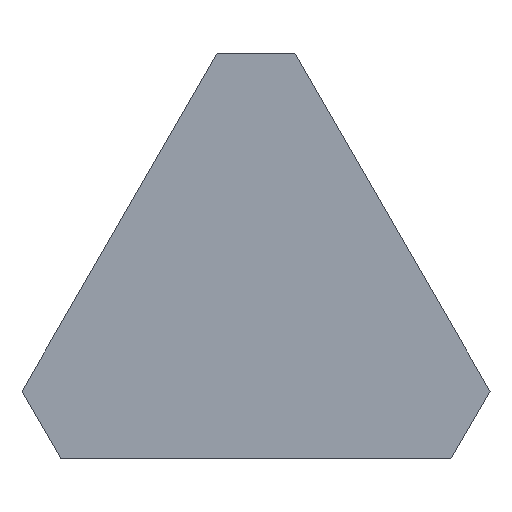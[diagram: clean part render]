
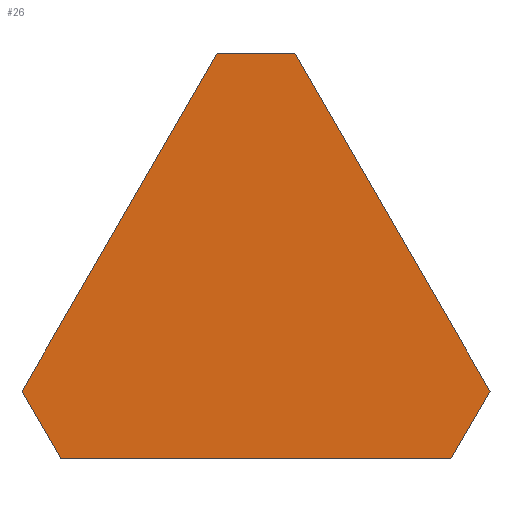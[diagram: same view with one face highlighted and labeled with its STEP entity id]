
A CAD part, top view. The second image highlights one B-rep face of the part: STEP entity #26.
In plain terms, the highlighted planar face has unit normal (0, 0, 1).
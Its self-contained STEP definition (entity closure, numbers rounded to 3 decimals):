
#26=ADVANCED_FACE($,(#58),#389,.T.);
#58=FACE_OUTER_BOUND($,#90,.T.);
#90=EDGE_LOOP($,(#169,#170,#171,#172,#173,#174));
#169=ORIENTED_EDGE($,*,*,#286,.T.);
#170=ORIENTED_EDGE($,*,*,#288,.T.);
#171=ORIENTED_EDGE($,*,*,#290,.T.);
#172=ORIENTED_EDGE($,*,*,#292,.T.);
#173=ORIENTED_EDGE($,*,*,#294,.T.);
#174=ORIENTED_EDGE($,*,*,#296,.T.);
#286=EDGE_CURVE($,#353,#354,#437,.T.);
#288=EDGE_CURVE($,#354,#355,#439,.T.);
#290=EDGE_CURVE($,#355,#356,#441,.T.);
#292=EDGE_CURVE($,#356,#357,#443,.T.);
#294=EDGE_CURVE($,#357,#358,#445,.T.);
#296=EDGE_CURVE($,#358,#353,#447,.T.);
#353=VERTEX_POINT($,#879);
#354=VERTEX_POINT($,#880);
#355=VERTEX_POINT($,#881);
#356=VERTEX_POINT($,#882);
#357=VERTEX_POINT($,#883);
#358=VERTEX_POINT($,#884);
#389=PLANE($,#582);
#437=B_SPLINE_CURVE_WITH_KNOTS($,1,(#714,#715),.UNSPECIFIED.,.F.,.F.,(2,
2),(-35.991,3.599),.UNSPECIFIED.);
#439=B_SPLINE_CURVE_WITH_KNOTS($,1,(#718,#719),.UNSPECIFIED.,.F.,.F.,(2,
2),(3.599,8.638),.UNSPECIFIED.);
#441=B_SPLINE_CURVE_WITH_KNOTS($,1,(#722,#723),.UNSPECIFIED.,.F.,.F.,(2,
2),(8.638,48.227),.UNSPECIFIED.);
#443=B_SPLINE_CURVE_WITH_KNOTS($,1,(#726,#727),.UNSPECIFIED.,.F.,.F.,(2,
2),(48.227,53.266),.UNSPECIFIED.);
#445=B_SPLINE_CURVE_WITH_KNOTS($,1,(#730,#731),.UNSPECIFIED.,.F.,.F.,(2,
2),(53.266,92.856),.UNSPECIFIED.);
#447=B_SPLINE_CURVE_WITH_KNOTS($,1,(#734,#735),.UNSPECIFIED.,.F.,.F.,(2,
2),(92.856,97.895),.UNSPECIFIED.);
#582=AXIS2_PLACEMENT_3D($,#838,#616,$);
#616=DIRECTION($,(0.,0.,1.));
#714=CARTESIAN_POINT($,(-49.487,-40.,15.6));
#715=CARTESIAN_POINT($,(49.487,-40.,15.6));
#718=CARTESIAN_POINT($,(49.487,-40.,15.6));
#719=CARTESIAN_POINT($,(59.385,-22.857,15.6));
#722=CARTESIAN_POINT($,(59.385,-22.857,15.6));
#723=CARTESIAN_POINT($,(9.897,62.857,15.6));
#726=CARTESIAN_POINT($,(9.897,62.857,15.6));
#727=CARTESIAN_POINT($,(-9.897,62.857,15.6));
#730=CARTESIAN_POINT($,(-9.897,62.857,15.6));
#731=CARTESIAN_POINT($,(-59.385,-22.857,15.6));
#734=CARTESIAN_POINT($,(-59.385,-22.857,15.6));
#735=CARTESIAN_POINT($,(-49.487,-40.,15.6));
#838=CARTESIAN_POINT($,(-59.385,-40.,15.6));
#879=CARTESIAN_POINT($,(-49.487,-40.,15.6));
#880=CARTESIAN_POINT($,(49.487,-40.,15.6));
#881=CARTESIAN_POINT($,(59.385,-22.857,15.6));
#882=CARTESIAN_POINT($,(9.897,62.857,15.6));
#883=CARTESIAN_POINT($,(-9.897,62.857,15.6));
#884=CARTESIAN_POINT($,(-59.385,-22.857,15.6));
